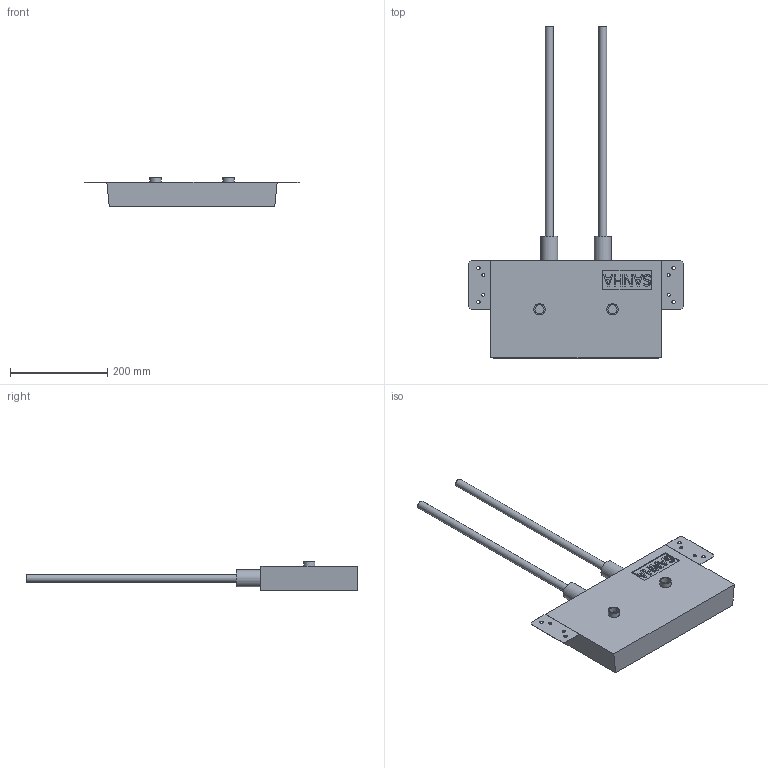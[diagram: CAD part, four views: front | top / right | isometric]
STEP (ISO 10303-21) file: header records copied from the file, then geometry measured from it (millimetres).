
FILE_DESCRIPTION(/* description */ (''),/* implementation_level */ '2;1');
FILE_NAME(/* name */ '\\LG50011\SANHA_Legnica\Engineering\Public\PROJEKTY\SANHA-BOX_Support_BiR\002-Rysunki_Boxów\25-BWDU-T\Zespół-325BWDUT16.stp',/* time_stamp */ '2018-11-05T14:29:31+01:00',/* author */ ('gomulka'),/* organization */ (''),/* preprocessor_version */ 'ST-DEVELOPER v16.13',/* originating_system */ 'Autodesk Inventor 2018',/* authorisation */ '');
FILE_SCHEMA (('AUTOMOTIVE_DESIGN { 1 0 10303 214 3 1 1 }'));
Length unit declared in the file: millimetre
Products named in the file (4): Zespół-325BWDUT16; KSBMPDW2; Rura_16x2; 325BWDUT16
Assembly tree (5 placements, depth 2):
  Zespół-325BWDUT16
    KSBMPDW2  x2
    Rura_16x2  x2
    325BWDUT16
Bounding box: 440.73 x 681.98 x 60 mm (x, y, z)
Volume: 3564807.4 mm3; surface area: 327625.6 mm2
Topology: 5 solids, 5 shells, 130 faces, 312 edges, 208 vertices
Faces by surface type: plane 94, cylinder 20, bspline 16
Full cylindrical faces by diameter (mm): 6.1 x4, 7 x4, 14 x2, 16 x4, 18.631 x2, 23 x2, 35 x2
Entity records: 3499 total; most frequent: CARTESIAN_POINT 777, ORIENTED_EDGE 524, DIRECTION 472, EDGE_CURVE 262, LINE 202, VECTOR 202, VERTEX_POINT 184, EDGE_LOOP 154
